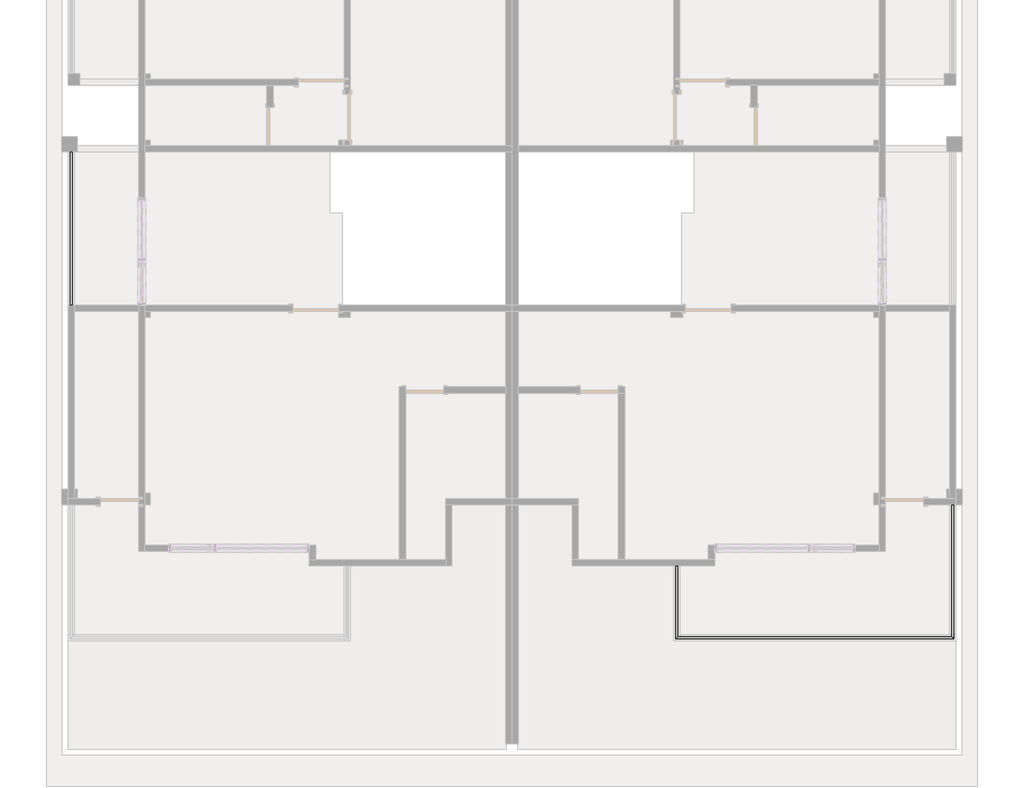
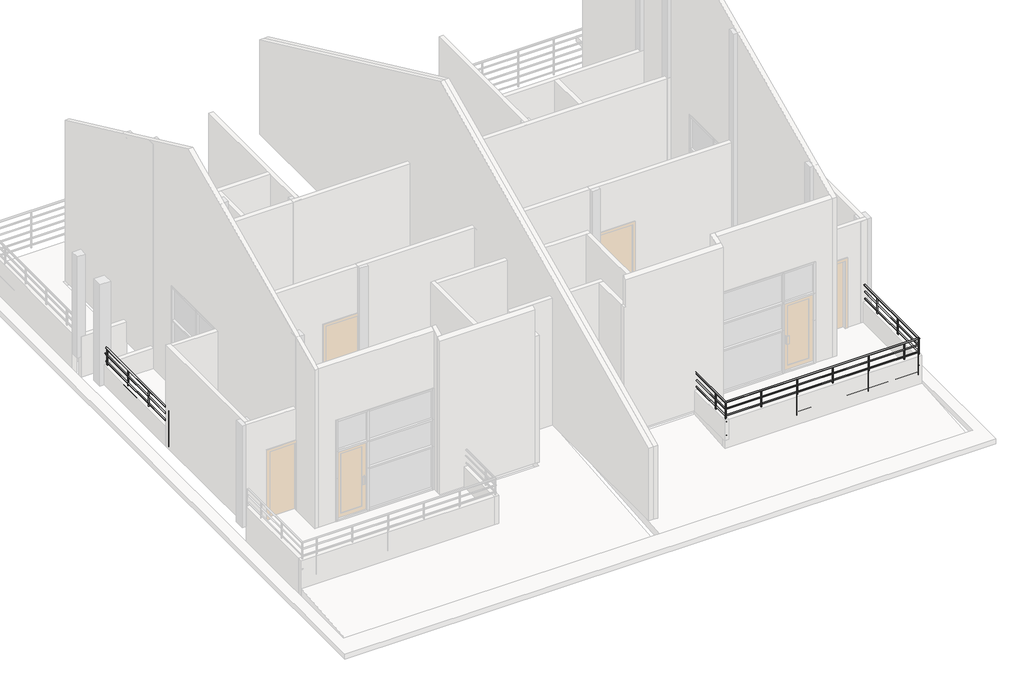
# One storey, part 4 of 6: 2 railings.
"""IFC4 building model written with IfcOpenShell, lengths in millimetres."""

from ifc_helpers import new_model, si_unit, point, frame, frame_2d, origin, place, context, project, spatial, circle_curve, ellipse_curve, trimmed, segment, composite_curve, outline, extrude, element, save
from ifc_brep_helpers import plane_surface, cylinder_surface, advanced_brep

model = new_model("IFC4")

# Units and contexts
model_context = context("Model", 3, world=origin())
ifc_project = project(units=[si_unit("LENGTHUNIT", "METRE", prefix="MILLI")], contexts=[model_context])

# Site, building, storey
site = spatial("IfcSite", under=ifc_project)
building = spatial("IfcBuilding", under=site)
storey = spatial("IfcBuildingStorey", under=building, Name="标高 2", Elevation=3900.0)

# Railings
placement = place(None, origin())
element("IfcRailing", 1, ObjectType="1100mm 圆管", at=placement, inside=storey, context=model_context, shape_type="SweptSolid", body=[
    extrude(outline(composite_curve([segment(trimmed(circle_curve(frame_2d((4980.0, -7765.3991115)), 20.0), [point((4980.0, -7745.3991115))], [point((4980.0, -7785.3991115))], False, "CARTESIAN"), True, "CONTINUOUS"), segment(trimmed(circle_curve(frame_2d((4980.0, -7765.3991115)), 20.0), [point((4980.0, -7785.3991115))], [point((4980.0, -7745.3991115))], False, "CARTESIAN"), True, "CONTINUOUS")], self_intersect=False)), frame((0.0, 3511.4406182, 0.0), z_axis=(0.0, 1.0, 0.0), x_axis=(0.0, 0.0, 1.0)), (0.0, 0.0, 1.0), 3120.0),
    extrude(outline(composite_curve([segment(trimmed(circle_curve(frame_2d((4785.0, -7765.3991115)), 15.0), [point((4785.0, -7780.3991115))], [point((4785.0, -7750.3991115))], False, "CARTESIAN"), True, "CONTINUOUS"), segment(trimmed(circle_curve(frame_2d((4785.0, -7765.3991115)), 15.0), [point((4785.0, -7750.3991115))], [point((4785.0, -7780.3991115))], False, "CARTESIAN"), True, "CONTINUOUS")], self_intersect=False)), frame((0.0, 3511.4406182, 0.0), z_axis=(0.0, 1.0, 0.0), x_axis=(0.0, 0.0, 1.0)), (0.0, 0.0, 1.0), 3120.0),
    extrude(outline(composite_curve([segment(trimmed(circle_curve(frame_2d((4585.0, -7765.3991115)), 15.0), [point((4585.0, -7780.3991115))], [point((4585.0, -7750.3991115))], False, "CARTESIAN"), True, "CONTINUOUS"), segment(trimmed(circle_curve(frame_2d((4585.0, -7765.3991115)), 15.0), [point((4585.0, -7750.3991115))], [point((4585.0, -7780.3991115))], False, "CARTESIAN"), True, "CONTINUOUS")], self_intersect=False)), frame((0.0, 3511.4406182, 0.0), z_axis=(0.0, 1.0, 0.0), x_axis=(0.0, 0.0, 1.0)), (0.0, 0.0, 1.0), 3120.0),
    extrude(outline(composite_curve([segment(trimmed(circle_curve(frame_2d((4385.0, -7765.3991115)), 15.0), [point((4385.0, -7780.3991115))], [point((4385.0, -7750.3991115))], False, "CARTESIAN"), True, "CONTINUOUS"), segment(trimmed(circle_curve(frame_2d((4385.0, -7765.3991115)), 15.0), [point((4385.0, -7750.3991115))], [point((4385.0, -7780.3991115))], False, "CARTESIAN"), True, "CONTINUOUS")], self_intersect=False)), frame((0.0, 3511.4406182, 0.0), z_axis=(0.0, 1.0, 0.0), x_axis=(0.0, 0.0, 1.0)), (0.0, 0.0, 1.0), 3120.0),
    extrude(outline(composite_curve([segment(trimmed(circle_curve(frame_2d((4185.0, -7765.3991115)), 15.0), [point((4185.0, -7780.3991115))], [point((4185.0, -7750.3991115))], False, "CARTESIAN"), True, "CONTINUOUS"), segment(trimmed(circle_curve(frame_2d((4185.0, -7765.3991115)), 15.0), [point((4185.0, -7750.3991115))], [point((4185.0, -7780.3991115))], False, "CARTESIAN"), True, "CONTINUOUS")], self_intersect=False)), frame((0.0, 3511.4406182, 0.0), z_axis=(0.0, 1.0, 0.0), x_axis=(0.0, 0.0, 1.0)), (0.0, 0.0, 1.0), 3120.0),
    extrude(outline(composite_curve([segment(trimmed(circle_curve(frame_2d((3985.0, -7765.3991115)), 15.0), [point((3985.0, -7780.3991115))], [point((3985.0, -7750.3991115))], False, "CARTESIAN"), True, "CONTINUOUS"), segment(trimmed(circle_curve(frame_2d((3985.0, -7765.3991115)), 15.0), [point((3985.0, -7750.3991115))], [point((3985.0, -7780.3991115))], False, "CARTESIAN"), True, "CONTINUOUS")], self_intersect=False)), frame((0.0, 3511.4406182, 0.0), z_axis=(0.0, 1.0, 0.0), x_axis=(0.0, 0.0, 1.0)), (0.0, 0.0, 1.0), 3120.0),
    extrude(outline(composite_curve([segment(trimmed(circle_curve(frame_2d((-7765.3991115, 6511.4406182)), 12.5), [point((-7777.8991115, 6511.4406182))], [point((-7752.8991115, 6511.4406182))], False, "CARTESIAN"), True, "CONTINUOUS"), segment(trimmed(circle_curve(frame_2d((-7765.3991115, 6511.4406182)), 12.5), [point((-7752.8991115, 6511.4406182))], [point((-7777.8991115, 6511.4406182))], False, "CARTESIAN"), True, "CONTINUOUS")], self_intersect=False)), frame((0.0, 0.0, 3900.0), z_axis=(0.0, 0.0, 1.0), x_axis=(1.0, 0.0, 0.0)), (0.0, 0.0, 1.0), 1060.0),
    extrude(outline(composite_curve([segment(trimmed(circle_curve(frame_2d((-7765.3991115, 5511.4406182)), 12.5), [point((-7777.8991115, 5511.4406182))], [point((-7752.8991115, 5511.4406182))], False, "CARTESIAN"), True, "CONTINUOUS"), segment(trimmed(circle_curve(frame_2d((-7765.3991115, 5511.4406182)), 12.5), [point((-7752.8991115, 5511.4406182))], [point((-7777.8991115, 5511.4406182))], False, "CARTESIAN"), True, "CONTINUOUS")], self_intersect=False)), frame((0.0, 0.0, 3900.0), z_axis=(0.0, 0.0, 1.0), x_axis=(1.0, 0.0, 0.0)), (0.0, 0.0, 1.0), 1060.0),
    extrude(outline(composite_curve([segment(trimmed(circle_curve(frame_2d((-7765.3991115, 4511.4406182)), 12.5), [point((-7777.8991115, 4511.4406182))], [point((-7752.8991115, 4511.4406182))], False, "CARTESIAN"), True, "CONTINUOUS"), segment(trimmed(circle_curve(frame_2d((-7765.3991115, 4511.4406182)), 12.5), [point((-7752.8991115, 4511.4406182))], [point((-7777.8991115, 4511.4406182))], False, "CARTESIAN"), True, "CONTINUOUS")], self_intersect=False)), frame((0.0, 0.0, 3900.0), z_axis=(0.0, 0.0, 1.0), x_axis=(1.0, 0.0, 0.0)), (0.0, 0.0, 1.0), 1060.0),
    extrude(outline(composite_curve([segment(trimmed(circle_curve(frame_2d((-7765.3991115, 6618.9406182)), 12.5), [point((-7777.8991115, 6618.9406182))], [point((-7752.8991115, 6618.9406182))], False, "CARTESIAN"), True, "CONTINUOUS"), segment(trimmed(circle_curve(frame_2d((-7765.3991115, 6618.9406182)), 12.5), [point((-7752.8991115, 6618.9406182))], [point((-7777.8991115, 6618.9406182))], False, "CARTESIAN"), True, "CONTINUOUS")], self_intersect=False)), frame((0.0, 0.0, 3900.0), z_axis=(0.0, 0.0, 1.0), x_axis=(1.0, 0.0, 0.0)), (0.0, 0.0, 1.0), 1060.0),
    extrude(outline(composite_curve([segment(trimmed(circle_curve(frame_2d((-7765.3991115, 3523.9406182)), 12.5), [point((-7777.8991115, 3523.9406182))], [point((-7752.8991115, 3523.9406182))], False, "CARTESIAN"), True, "CONTINUOUS"), segment(trimmed(circle_curve(frame_2d((-7765.3991115, 3523.9406182)), 12.5), [point((-7752.8991115, 3523.9406182))], [point((-7777.8991115, 3523.9406182))], False, "CARTESIAN"), True, "CONTINUOUS")], self_intersect=False)), frame((0.0, 0.0, 3900.0), z_axis=(0.0, 0.0, 1.0), x_axis=(1.0, 0.0, 0.0)), (0.0, 0.0, 1.0), 1060.0),
])
element("IfcRailing", 2, ObjectType="1100mm 圆管", at=placement, inside=storey, context=model_context, shape_type="SolidModel", body=[
    advanced_brep(
    [(4054.6008885, -1463.5593818, 4980.0), (4094.6008885, -1463.5593818, 4980.0), (4054.6008885, -2948.5593818, 4980.0), (4094.6008885, -2908.5593818, 4980.0), (9494.6008885, -2948.5593818, 4980.0), (9454.6008885, -2908.5593818, 4980.0), (9494.6008885, -268.5593818, 4980.0), (9454.6008885, -268.5593818, 4980.0)],
    [
        (0, 1, circle_curve(frame((4074.6008885, -1463.5593818, 4980.0), z_axis=(0.0, 1.0, 0.0), x_axis=(1.0, 0.0, 0.0)), 20.0)),
        (1, 0, circle_curve(frame((4074.6008885, -1463.5593818, 4980.0), z_axis=(0.0, 1.0, 0.0), x_axis=(1.0, 0.0, 0.0)), 20.0)),
        (0, 2),
        (2, 3, ellipse_curve(frame((4074.6008885, -2928.5593818, 4980.0), z_axis=(-0.7071067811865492, 0.7071067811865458, 0.0), x_axis=(0.7071067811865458, 0.7071067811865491, 0.0)), 28.2842712, 20.0)),
        (3, 1),
        (3, 2, ellipse_curve(frame((4074.6008885, -2928.5593818, 4980.0), z_axis=(-0.7071067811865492, 0.7071067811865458, 0.0), x_axis=(0.7071067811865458, 0.7071067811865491, 0.0)), 28.2842712, 20.0)),
        (2, 4),
        (4, 5, ellipse_curve(frame((9474.6008885, -2928.5593818, 4980.0), z_axis=(-0.7071067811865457, -0.7071067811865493, 0.0), x_axis=(-0.7071067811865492, 0.7071067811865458, 0.0)), 28.2842712, 20.0)),
        (5, 3),
        (5, 4, ellipse_curve(frame((9474.6008885, -2928.5593818, 4980.0), z_axis=(-0.7071067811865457, -0.7071067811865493, 0.0), x_axis=(-0.7071067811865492, 0.7071067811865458, 0.0)), 28.2842712, 20.0)),
        (6, 7, circle_curve(frame((9474.6008885, -268.5593818, 4980.0), z_axis=(0.0, 1.0, 0.0), x_axis=(-1.0, 0.0, 0.0)), 20.0)),
        (7, 6, circle_curve(frame((9474.6008885, -268.5593818, 4980.0), z_axis=(0.0, 1.0, 0.0), x_axis=(-1.0, 0.0, 0.0)), 20.0)),
        (4, 6),
        (7, 5),
    ],
    [
        plane_surface(frame((4074.6008885, -1463.5593818, 5000.0), z_axis=(0.0, 1.0, 0.0), x_axis=(0.0, 0.0, -1.0))),
        cylinder_surface(frame((4074.6008885, -1463.5593818, 4980.0), z_axis=(0.0, 1.0, 0.0), x_axis=(1.0, 0.0, 0.0)), 20.0),
        cylinder_surface(frame((4074.6008885, -2928.5593818, 4980.0), z_axis=(-1.0, 0.0, 0.0), x_axis=(0.0, 1.0, 0.0)), 20.0),
        plane_surface(frame((9474.6008885, -268.5593818, 5000.0), z_axis=(0.0, 1.0, 0.0), x_axis=(0.0, 0.0, 1.0))),
        cylinder_surface(frame((9474.6008885, -2928.5593818, 4980.0), z_axis=(0.0, -1.0, 0.0), x_axis=(-1.0, 0.0, 0.0)), 20.0),
    ],
    [
        (0, [[1, 2]]),
        (1, [[-1, 3, 4, 5]]),
        (1, [[-2, -5, 6, -3]]),
        (2, [[-4, 7, 8, 9]]),
        (2, [[-6, -9, 10, -7]]),
        (3, [[11, 12]]),
        (4, [[-8, 13, -12, 14]]),
        (4, [[-10, -14, -11, -13]]),
    ],
),
    advanced_brep(
    [(4059.6008885, -1463.5593818, 4785.0), (4089.6008885, -1463.5593818, 4785.0), (4089.6008885, -2913.5593818, 4785.0), (4059.6008885, -2943.5593818, 4785.0), (9459.6008885, -2913.5593818, 4785.0), (9489.6008885, -2943.5593818, 4785.0), (9489.6008885, -268.5593818, 4785.0), (9459.6008885, -268.5593818, 4785.0)],
    [
        (0, 1, circle_curve(frame((4074.6008885, -1463.5593818, 4785.0), z_axis=(0.0, 1.0, 0.0), x_axis=(1.0, 0.0, 0.0)), 15.0)),
        (1, 0, circle_curve(frame((4074.6008885, -1463.5593818, 4785.0), z_axis=(0.0, 1.0, 0.0), x_axis=(1.0, 0.0, 0.0)), 15.0)),
        (1, 2),
        (2, 3, ellipse_curve(frame((4074.6008885, -2928.5593818, 4785.0), z_axis=(-0.7071067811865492, 0.7071067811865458, 0.0), x_axis=(0.7071067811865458, 0.7071067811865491, 0.0)), 21.2132034, 15.0)),
        (3, 0),
        (3, 2, ellipse_curve(frame((4074.6008885, -2928.5593818, 4785.0), z_axis=(-0.7071067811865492, 0.7071067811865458, 0.0), x_axis=(0.7071067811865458, 0.7071067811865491, 0.0)), 21.2132034, 15.0)),
        (2, 4),
        (4, 5, ellipse_curve(frame((9474.6008885, -2928.5593818, 4785.0), z_axis=(-0.7071067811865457, -0.7071067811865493, 0.0), x_axis=(-0.7071067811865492, 0.7071067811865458, 0.0)), 21.2132034, 15.0)),
        (5, 3),
        (5, 4, ellipse_curve(frame((9474.6008885, -2928.5593818, 4785.0), z_axis=(-0.7071067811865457, -0.7071067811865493, 0.0), x_axis=(-0.7071067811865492, 0.7071067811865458, 0.0)), 21.2132034, 15.0)),
        (6, 7, circle_curve(frame((9474.6008885, -268.5593818, 4785.0), z_axis=(0.0, 1.0, 0.0), x_axis=(-1.0, 0.0, 0.0)), 15.0)),
        (7, 6, circle_curve(frame((9474.6008885, -268.5593818, 4785.0), z_axis=(0.0, 1.0, 0.0), x_axis=(-1.0, 0.0, 0.0)), 15.0)),
        (4, 7),
        (6, 5),
    ],
    [
        plane_surface(frame((4074.6008885, -1463.5593818, 4800.0), z_axis=(0.0, 1.0, 0.0), x_axis=(0.0, 0.0, -1.0))),
        cylinder_surface(frame((4074.6008885, -1463.5593818, 4785.0), z_axis=(0.0, 1.0, 0.0), x_axis=(1.0, 0.0, 0.0)), 15.0),
        cylinder_surface(frame((4074.6008885, -2928.5593818, 4785.0), z_axis=(-1.0, 0.0, 0.0), x_axis=(0.0, 1.0, 0.0)), 15.0),
        plane_surface(frame((9474.6008885, -268.5593818, 4800.0), z_axis=(0.0, 1.0, 0.0), x_axis=(0.0, 0.0, 1.0))),
        cylinder_surface(frame((9474.6008885, -2928.5593818, 4785.0), z_axis=(0.0, -1.0, 0.0), x_axis=(-1.0, 0.0, 0.0)), 15.0),
    ],
    [
        (0, [[1, 2]]),
        (1, [[-2, 3, 4, 5]]),
        (1, [[-1, -5, 6, -3]]),
        (2, [[-4, 7, 8, 9]]),
        (2, [[-6, -9, 10, -7]]),
        (3, [[11, 12]]),
        (4, [[-8, 13, -11, 14]]),
        (4, [[-10, -14, -12, -13]]),
    ],
),
    advanced_brep(
    [(4059.6008885, -1463.5593818, 4585.0), (4089.6008885, -1463.5593818, 4585.0), (4089.6008885, -2913.5593818, 4585.0), (4059.6008885, -2943.5593818, 4585.0), (9459.6008885, -2913.5593818, 4585.0), (9489.6008885, -2943.5593818, 4585.0), (9489.6008885, -268.5593818, 4585.0), (9459.6008885, -268.5593818, 4585.0)],
    [
        (0, 1, circle_curve(frame((4074.6008885, -1463.5593818, 4585.0), z_axis=(0.0, 1.0, 0.0), x_axis=(1.0, 0.0, 0.0)), 15.0)),
        (1, 0, circle_curve(frame((4074.6008885, -1463.5593818, 4585.0), z_axis=(0.0, 1.0, 0.0), x_axis=(1.0, 0.0, 0.0)), 15.0)),
        (1, 2),
        (2, 3, ellipse_curve(frame((4074.6008885, -2928.5593818, 4585.0), z_axis=(-0.7071067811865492, 0.7071067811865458, 0.0), x_axis=(0.7071067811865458, 0.7071067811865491, 0.0)), 21.2132034, 15.0)),
        (3, 0),
        (3, 2, ellipse_curve(frame((4074.6008885, -2928.5593818, 4585.0), z_axis=(-0.7071067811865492, 0.7071067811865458, 0.0), x_axis=(0.7071067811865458, 0.7071067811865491, 0.0)), 21.2132034, 15.0)),
        (2, 4),
        (4, 5, ellipse_curve(frame((9474.6008885, -2928.5593818, 4585.0), z_axis=(-0.7071067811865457, -0.7071067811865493, 0.0), x_axis=(-0.7071067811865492, 0.7071067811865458, 0.0)), 21.2132034, 15.0)),
        (5, 3),
        (5, 4, ellipse_curve(frame((9474.6008885, -2928.5593818, 4585.0), z_axis=(-0.7071067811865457, -0.7071067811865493, 0.0), x_axis=(-0.7071067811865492, 0.7071067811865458, 0.0)), 21.2132034, 15.0)),
        (6, 7, circle_curve(frame((9474.6008885, -268.5593818, 4585.0), z_axis=(0.0, 1.0, 0.0), x_axis=(-1.0, 0.0, 0.0)), 15.0)),
        (7, 6, circle_curve(frame((9474.6008885, -268.5593818, 4585.0), z_axis=(0.0, 1.0, 0.0), x_axis=(-1.0, 0.0, 0.0)), 15.0)),
        (4, 7),
        (6, 5),
    ],
    [
        plane_surface(frame((4074.6008885, -1463.5593818, 4600.0), z_axis=(0.0, 1.0, 0.0), x_axis=(0.0, 0.0, -1.0))),
        cylinder_surface(frame((4074.6008885, -1463.5593818, 4585.0), z_axis=(0.0, 1.0, 0.0), x_axis=(1.0, 0.0, 0.0)), 15.0),
        cylinder_surface(frame((4074.6008885, -2928.5593818, 4585.0), z_axis=(-1.0, 0.0, 0.0), x_axis=(0.0, 1.0, 0.0)), 15.0),
        plane_surface(frame((9474.6008885, -268.5593818, 4600.0), z_axis=(0.0, 1.0, 0.0), x_axis=(0.0, 0.0, 1.0))),
        cylinder_surface(frame((9474.6008885, -2928.5593818, 4585.0), z_axis=(0.0, -1.0, 0.0), x_axis=(-1.0, 0.0, 0.0)), 15.0),
    ],
    [
        (0, [[1, 2]]),
        (1, [[-2, 3, 4, 5]]),
        (1, [[-1, -5, 6, -3]]),
        (2, [[-4, 7, 8, 9]]),
        (2, [[-6, -9, 10, -7]]),
        (3, [[11, 12]]),
        (4, [[-8, 13, -11, 14]]),
        (4, [[-10, -14, -12, -13]]),
    ],
),
    advanced_brep(
    [(4059.6008885, -1463.5593818, 4385.0), (4089.6008885, -1463.5593818, 4385.0), (4089.6008885, -2913.5593818, 4385.0), (4059.6008885, -2943.5593818, 4385.0), (9459.6008885, -2913.5593818, 4385.0), (9489.6008885, -2943.5593818, 4385.0), (9489.6008885, -268.5593818, 4385.0), (9459.6008885, -268.5593818, 4385.0)],
    [
        (0, 1, circle_curve(frame((4074.6008885, -1463.5593818, 4385.0), z_axis=(0.0, 1.0, 0.0), x_axis=(1.0, 0.0, 0.0)), 15.0)),
        (1, 0, circle_curve(frame((4074.6008885, -1463.5593818, 4385.0), z_axis=(0.0, 1.0, 0.0), x_axis=(1.0, 0.0, 0.0)), 15.0)),
        (1, 2),
        (2, 3, ellipse_curve(frame((4074.6008885, -2928.5593818, 4385.0), z_axis=(-0.7071067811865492, 0.7071067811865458, 0.0), x_axis=(0.7071067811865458, 0.7071067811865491, 0.0)), 21.2132034, 15.0)),
        (3, 0),
        (3, 2, ellipse_curve(frame((4074.6008885, -2928.5593818, 4385.0), z_axis=(-0.7071067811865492, 0.7071067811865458, 0.0), x_axis=(0.7071067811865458, 0.7071067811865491, 0.0)), 21.2132034, 15.0)),
        (2, 4),
        (4, 5, ellipse_curve(frame((9474.6008885, -2928.5593818, 4385.0), z_axis=(-0.7071067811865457, -0.7071067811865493, 0.0), x_axis=(-0.7071067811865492, 0.7071067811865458, 0.0)), 21.2132034, 15.0)),
        (5, 3),
        (5, 4, ellipse_curve(frame((9474.6008885, -2928.5593818, 4385.0), z_axis=(-0.7071067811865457, -0.7071067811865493, 0.0), x_axis=(-0.7071067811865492, 0.7071067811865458, 0.0)), 21.2132034, 15.0)),
        (6, 7, circle_curve(frame((9474.6008885, -268.5593818, 4385.0), z_axis=(0.0, 1.0, 0.0), x_axis=(-1.0, 0.0, 0.0)), 15.0)),
        (7, 6, circle_curve(frame((9474.6008885, -268.5593818, 4385.0), z_axis=(0.0, 1.0, 0.0), x_axis=(-1.0, 0.0, 0.0)), 15.0)),
        (4, 7),
        (6, 5),
    ],
    [
        plane_surface(frame((4074.6008885, -1463.5593818, 4400.0), z_axis=(0.0, 1.0, 0.0), x_axis=(0.0, 0.0, -1.0))),
        cylinder_surface(frame((4074.6008885, -1463.5593818, 4385.0), z_axis=(0.0, 1.0, 0.0), x_axis=(1.0, 0.0, 0.0)), 15.0),
        cylinder_surface(frame((4074.6008885, -2928.5593818, 4385.0), z_axis=(-1.0, 0.0, 0.0), x_axis=(0.0, 1.0, 0.0)), 15.0),
        plane_surface(frame((9474.6008885, -268.5593818, 4400.0), z_axis=(0.0, 1.0, 0.0), x_axis=(0.0, 0.0, 1.0))),
        cylinder_surface(frame((9474.6008885, -2928.5593818, 4385.0), z_axis=(0.0, -1.0, 0.0), x_axis=(-1.0, 0.0, 0.0)), 15.0),
    ],
    [
        (0, [[1, 2]]),
        (1, [[-2, 3, 4, 5]]),
        (1, [[-1, -5, 6, -3]]),
        (2, [[-4, 7, 8, 9]]),
        (2, [[-6, -9, 10, -7]]),
        (3, [[11, 12]]),
        (4, [[-8, 13, -11, 14]]),
        (4, [[-10, -14, -12, -13]]),
    ],
),
    advanced_brep(
    [(4059.6008885, -1463.5593818, 4185.0), (4089.6008885, -1463.5593818, 4185.0), (4089.6008885, -2913.5593818, 4185.0), (4059.6008885, -2943.5593818, 4185.0), (9459.6008885, -2913.5593818, 4185.0), (9489.6008885, -2943.5593818, 4185.0), (9489.6008885, -268.5593818, 4185.0), (9459.6008885, -268.5593818, 4185.0)],
    [
        (0, 1, circle_curve(frame((4074.6008885, -1463.5593818, 4185.0), z_axis=(0.0, 1.0, 0.0), x_axis=(1.0, 0.0, 0.0)), 15.0)),
        (1, 0, circle_curve(frame((4074.6008885, -1463.5593818, 4185.0), z_axis=(0.0, 1.0, 0.0), x_axis=(1.0, 0.0, 0.0)), 15.0)),
        (1, 2),
        (2, 3, ellipse_curve(frame((4074.6008885, -2928.5593818, 4185.0), z_axis=(-0.7071067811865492, 0.7071067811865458, 0.0), x_axis=(0.7071067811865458, 0.7071067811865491, 0.0)), 21.2132034, 15.0)),
        (3, 0),
        (3, 2, ellipse_curve(frame((4074.6008885, -2928.5593818, 4185.0), z_axis=(-0.7071067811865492, 0.7071067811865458, 0.0), x_axis=(0.7071067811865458, 0.7071067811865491, 0.0)), 21.2132034, 15.0)),
        (2, 4),
        (4, 5, ellipse_curve(frame((9474.6008885, -2928.5593818, 4185.0), z_axis=(-0.7071067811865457, -0.7071067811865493, 0.0), x_axis=(-0.7071067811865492, 0.7071067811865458, 0.0)), 21.2132034, 15.0)),
        (5, 3),
        (5, 4, ellipse_curve(frame((9474.6008885, -2928.5593818, 4185.0), z_axis=(-0.7071067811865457, -0.7071067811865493, 0.0), x_axis=(-0.7071067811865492, 0.7071067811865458, 0.0)), 21.2132034, 15.0)),
        (6, 7, circle_curve(frame((9474.6008885, -268.5593818, 4185.0), z_axis=(0.0, 1.0, 0.0), x_axis=(-1.0, 0.0, 0.0)), 15.0)),
        (7, 6, circle_curve(frame((9474.6008885, -268.5593818, 4185.0), z_axis=(0.0, 1.0, 0.0), x_axis=(-1.0, 0.0, 0.0)), 15.0)),
        (4, 7),
        (6, 5),
    ],
    [
        plane_surface(frame((4074.6008885, -1463.5593818, 4200.0), z_axis=(0.0, 1.0, 0.0), x_axis=(0.0, 0.0, -1.0))),
        cylinder_surface(frame((4074.6008885, -1463.5593818, 4185.0), z_axis=(0.0, 1.0, 0.0), x_axis=(1.0, 0.0, 0.0)), 15.0),
        cylinder_surface(frame((4074.6008885, -2928.5593818, 4185.0), z_axis=(-1.0, 0.0, 0.0), x_axis=(0.0, 1.0, 0.0)), 15.0),
        plane_surface(frame((9474.6008885, -268.5593818, 4200.0), z_axis=(0.0, 1.0, 0.0), x_axis=(0.0, 0.0, 1.0))),
        cylinder_surface(frame((9474.6008885, -2928.5593818, 4185.0), z_axis=(0.0, -1.0, 0.0), x_axis=(-1.0, 0.0, 0.0)), 15.0),
    ],
    [
        (0, [[1, 2]]),
        (1, [[-2, 3, 4, 5]]),
        (1, [[-1, -5, 6, -3]]),
        (2, [[-4, 7, 8, 9]]),
        (2, [[-6, -9, 10, -7]]),
        (3, [[11, 12]]),
        (4, [[-8, 13, -11, 14]]),
        (4, [[-10, -14, -12, -13]]),
    ],
),
    advanced_brep(
    [(4059.6008885, -1463.5593818, 3985.0), (4089.6008885, -1463.5593818, 3985.0), (4089.6008885, -2913.5593818, 3985.0), (4059.6008885, -2943.5593818, 3985.0), (9459.6008885, -2913.5593818, 3985.0), (9489.6008885, -2943.5593818, 3985.0), (9489.6008885, -268.5593818, 3985.0), (9459.6008885, -268.5593818, 3985.0)],
    [
        (0, 1, circle_curve(frame((4074.6008885, -1463.5593818, 3985.0), z_axis=(0.0, 1.0, 0.0), x_axis=(1.0, 0.0, 0.0)), 15.0)),
        (1, 0, circle_curve(frame((4074.6008885, -1463.5593818, 3985.0), z_axis=(0.0, 1.0, 0.0), x_axis=(1.0, 0.0, 0.0)), 15.0)),
        (1, 2),
        (2, 3, ellipse_curve(frame((4074.6008885, -2928.5593818, 3985.0), z_axis=(-0.7071067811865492, 0.7071067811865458, 0.0), x_axis=(0.7071067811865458, 0.7071067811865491, 0.0)), 21.2132034, 15.0)),
        (3, 0),
        (3, 2, ellipse_curve(frame((4074.6008885, -2928.5593818, 3985.0), z_axis=(-0.7071067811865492, 0.7071067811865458, 0.0), x_axis=(0.7071067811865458, 0.7071067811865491, 0.0)), 21.2132034, 15.0)),
        (2, 4),
        (4, 5, ellipse_curve(frame((9474.6008885, -2928.5593818, 3985.0), z_axis=(-0.7071067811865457, -0.7071067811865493, 0.0), x_axis=(-0.7071067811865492, 0.7071067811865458, 0.0)), 21.2132034, 15.0)),
        (5, 3),
        (5, 4, ellipse_curve(frame((9474.6008885, -2928.5593818, 3985.0), z_axis=(-0.7071067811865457, -0.7071067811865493, 0.0), x_axis=(-0.7071067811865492, 0.7071067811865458, 0.0)), 21.2132034, 15.0)),
        (6, 7, circle_curve(frame((9474.6008885, -268.5593818, 3985.0), z_axis=(0.0, 1.0, 0.0), x_axis=(-1.0, 0.0, 0.0)), 15.0)),
        (7, 6, circle_curve(frame((9474.6008885, -268.5593818, 3985.0), z_axis=(0.0, 1.0, 0.0), x_axis=(-1.0, 0.0, 0.0)), 15.0)),
        (4, 7),
        (6, 5),
    ],
    [
        plane_surface(frame((4074.6008885, -1463.5593818, 4000.0), z_axis=(0.0, 1.0, 0.0), x_axis=(0.0, 0.0, -1.0))),
        cylinder_surface(frame((4074.6008885, -1463.5593818, 3985.0), z_axis=(0.0, 1.0, 0.0), x_axis=(1.0, 0.0, 0.0)), 15.0),
        cylinder_surface(frame((4074.6008885, -2928.5593818, 3985.0), z_axis=(-1.0, 0.0, 0.0), x_axis=(0.0, 1.0, 0.0)), 15.0),
        plane_surface(frame((9474.6008885, -268.5593818, 4000.0), z_axis=(0.0, 1.0, 0.0), x_axis=(0.0, 0.0, 1.0))),
        cylinder_surface(frame((9474.6008885, -2928.5593818, 3985.0), z_axis=(0.0, -1.0, 0.0), x_axis=(-1.0, 0.0, 0.0)), 15.0),
    ],
    [
        (0, [[1, 2]]),
        (1, [[-2, 3, 4, 5]]),
        (1, [[-1, -5, 6, -3]]),
        (2, [[-4, 7, 8, 9]]),
        (2, [[-6, -9, 10, -7]]),
        (3, [[11, 12]]),
        (4, [[-8, 13, -11, 14]]),
        (4, [[-10, -14, -12, -13]]),
    ],
),
    extrude(outline(composite_curve([segment(trimmed(circle_curve(frame_2d((9474.6008885, -928.5593818)), 12.5), [point((9487.1008885, -928.5593818))], [point((9462.1008885, -928.5593818))], False, "CARTESIAN"), True, "CONTINUOUS"), segment(trimmed(circle_curve(frame_2d((9474.6008885, -928.5593818)), 12.5), [point((9462.1008885, -928.5593818))], [point((9487.1008885, -928.5593818))], False, "CARTESIAN"), True, "CONTINUOUS")], self_intersect=False)), frame((0.0, 0.0, 3900.0), z_axis=(0.0, 0.0, 1.0), x_axis=(1.0, 0.0, 0.0)), (0.0, 0.0, 1.0), 1060.0),
    extrude(outline(composite_curve([segment(trimmed(circle_curve(frame_2d((9474.6008885, -1928.5593818)), 12.5), [point((9487.1008885, -1928.5593818))], [point((9462.1008885, -1928.5593818))], False, "CARTESIAN"), True, "CONTINUOUS"), segment(trimmed(circle_curve(frame_2d((9474.6008885, -1928.5593818)), 12.5), [point((9462.1008885, -1928.5593818))], [point((9487.1008885, -1928.5593818))], False, "CARTESIAN"), True, "CONTINUOUS")], self_intersect=False)), frame((0.0, 0.0, 3900.0), z_axis=(0.0, 0.0, 1.0), x_axis=(1.0, 0.0, 0.0)), (0.0, 0.0, 1.0), 1060.0),
    extrude(outline(composite_curve([segment(trimmed(circle_curve(frame_2d((9074.6008885, -2928.5593818)), 12.5), [point((9074.6008885, -2941.0593818))], [point((9074.6008885, -2916.0593818))], False, "CARTESIAN"), True, "CONTINUOUS"), segment(trimmed(circle_curve(frame_2d((9074.6008885, -2928.5593818)), 12.5), [point((9074.6008885, -2916.0593818))], [point((9074.6008885, -2941.0593818))], False, "CARTESIAN"), True, "CONTINUOUS")], self_intersect=False)), frame((0.0, 0.0, 3900.0), z_axis=(0.0, 0.0, 1.0), x_axis=(1.0, 0.0, 0.0)), (0.0, 0.0, 1.0), 1060.0),
    extrude(outline(composite_curve([segment(trimmed(circle_curve(frame_2d((8074.6008885, -2928.5593818)), 12.5), [point((8074.6008885, -2941.0593818))], [point((8074.6008885, -2916.0593818))], False, "CARTESIAN"), True, "CONTINUOUS"), segment(trimmed(circle_curve(frame_2d((8074.6008885, -2928.5593818)), 12.5), [point((8074.6008885, -2916.0593818))], [point((8074.6008885, -2941.0593818))], False, "CARTESIAN"), True, "CONTINUOUS")], self_intersect=False)), frame((0.0, 0.0, 3900.0), z_axis=(0.0, 0.0, 1.0), x_axis=(1.0, 0.0, 0.0)), (0.0, 0.0, 1.0), 1060.0),
    extrude(outline(composite_curve([segment(trimmed(circle_curve(frame_2d((7074.6008885, -2928.5593818)), 12.5), [point((7074.6008885, -2941.0593818))], [point((7074.6008885, -2916.0593818))], False, "CARTESIAN"), True, "CONTINUOUS"), segment(trimmed(circle_curve(frame_2d((7074.6008885, -2928.5593818)), 12.5), [point((7074.6008885, -2916.0593818))], [point((7074.6008885, -2941.0593818))], False, "CARTESIAN"), True, "CONTINUOUS")], self_intersect=False)), frame((0.0, 0.0, 3900.0), z_axis=(0.0, 0.0, 1.0), x_axis=(1.0, 0.0, 0.0)), (0.0, 0.0, 1.0), 1060.0),
    extrude(outline(composite_curve([segment(trimmed(circle_curve(frame_2d((6074.6008885, -2928.5593818)), 12.5), [point((6074.6008885, -2941.0593818))], [point((6074.6008885, -2916.0593818))], False, "CARTESIAN"), True, "CONTINUOUS"), segment(trimmed(circle_curve(frame_2d((6074.6008885, -2928.5593818)), 12.5), [point((6074.6008885, -2916.0593818))], [point((6074.6008885, -2941.0593818))], False, "CARTESIAN"), True, "CONTINUOUS")], self_intersect=False)), frame((0.0, 0.0, 3900.0), z_axis=(0.0, 0.0, 1.0), x_axis=(1.0, 0.0, 0.0)), (0.0, 0.0, 1.0), 1060.0),
    extrude(outline(composite_curve([segment(trimmed(circle_curve(frame_2d((5074.6008885, -2928.5593818)), 12.5), [point((5074.6008885, -2941.0593818))], [point((5074.6008885, -2916.0593818))], False, "CARTESIAN"), True, "CONTINUOUS"), segment(trimmed(circle_curve(frame_2d((5074.6008885, -2928.5593818)), 12.5), [point((5074.6008885, -2916.0593818))], [point((5074.6008885, -2941.0593818))], False, "CARTESIAN"), True, "CONTINUOUS")], self_intersect=False)), frame((0.0, 0.0, 3900.0), z_axis=(0.0, 0.0, 1.0), x_axis=(1.0, 0.0, 0.0)), (0.0, 0.0, 1.0), 1060.0),
    extrude(outline(composite_curve([segment(trimmed(circle_curve(frame_2d((4074.6008885, -2463.5593818)), 12.5), [point((4062.1008885, -2463.5593818))], [point((4087.1008885, -2463.5593818))], False, "CARTESIAN"), True, "CONTINUOUS"), segment(trimmed(circle_curve(frame_2d((4074.6008885, -2463.5593818)), 12.5), [point((4087.1008885, -2463.5593818))], [point((4062.1008885, -2463.5593818))], False, "CARTESIAN"), True, "CONTINUOUS")], self_intersect=False)), frame((0.0, 0.0, 3900.0), z_axis=(0.0, 0.0, 1.0), x_axis=(1.0, 0.0, 0.0)), (0.0, 0.0, 1.0), 1060.0),
    extrude(outline(composite_curve([segment(trimmed(circle_curve(frame_2d((9474.6008885, -2928.5593818)), 12.5), [point((9474.6008885, -2941.0593818))], [point((9474.6008885, -2916.0593818))], False, "CARTESIAN"), True, "CONTINUOUS"), segment(trimmed(circle_curve(frame_2d((9474.6008885, -2928.5593818)), 12.5), [point((9474.6008885, -2916.0593818))], [point((9474.6008885, -2941.0593818))], False, "CARTESIAN"), True, "CONTINUOUS")], self_intersect=False)), frame((0.0, 0.0, 3900.0), z_axis=(0.0, 0.0, 1.0), x_axis=(1.0, 0.0, 0.0)), (0.0, 0.0, 1.0), 1060.0),
    extrude(outline(composite_curve([segment(trimmed(circle_curve(frame_2d((4074.6008885, -2928.5593818)), 12.5), [point((4062.1008885, -2928.5593818))], [point((4087.1008885, -2928.5593818))], False, "CARTESIAN"), True, "CONTINUOUS"), segment(trimmed(circle_curve(frame_2d((4074.6008885, -2928.5593818)), 12.5), [point((4087.1008885, -2928.5593818))], [point((4062.1008885, -2928.5593818))], False, "CARTESIAN"), True, "CONTINUOUS")], self_intersect=False)), frame((0.0, 0.0, 3900.0), z_axis=(0.0, 0.0, 1.0), x_axis=(1.0, 0.0, 0.0)), (0.0, 0.0, 1.0), 1060.0),
    extrude(outline(composite_curve([segment(trimmed(circle_curve(frame_2d((9474.6008885, -281.0593818)), 12.5), [point((9487.1008885, -281.0593818))], [point((9462.1008885, -281.0593818))], False, "CARTESIAN"), True, "CONTINUOUS"), segment(trimmed(circle_curve(frame_2d((9474.6008885, -281.0593818)), 12.5), [point((9462.1008885, -281.0593818))], [point((9487.1008885, -281.0593818))], False, "CARTESIAN"), True, "CONTINUOUS")], self_intersect=False)), frame((0.0, 0.0, 3900.0), z_axis=(0.0, 0.0, 1.0), x_axis=(1.0, 0.0, 0.0)), (0.0, 0.0, 1.0), 1060.0),
    extrude(outline(composite_curve([segment(trimmed(circle_curve(frame_2d((4074.6008885, -1476.0593818)), 12.5), [point((4062.1008885, -1476.0593818))], [point((4087.1008885, -1476.0593818))], False, "CARTESIAN"), True, "CONTINUOUS"), segment(trimmed(circle_curve(frame_2d((4074.6008885, -1476.0593818)), 12.5), [point((4087.1008885, -1476.0593818))], [point((4062.1008885, -1476.0593818))], False, "CARTESIAN"), True, "CONTINUOUS")], self_intersect=False)), frame((0.0, 0.0, 3900.0), z_axis=(0.0, 0.0, 1.0), x_axis=(1.0, 0.0, 0.0)), (0.0, 0.0, 1.0), 1060.0),
])

save(model, "model.ifc")
